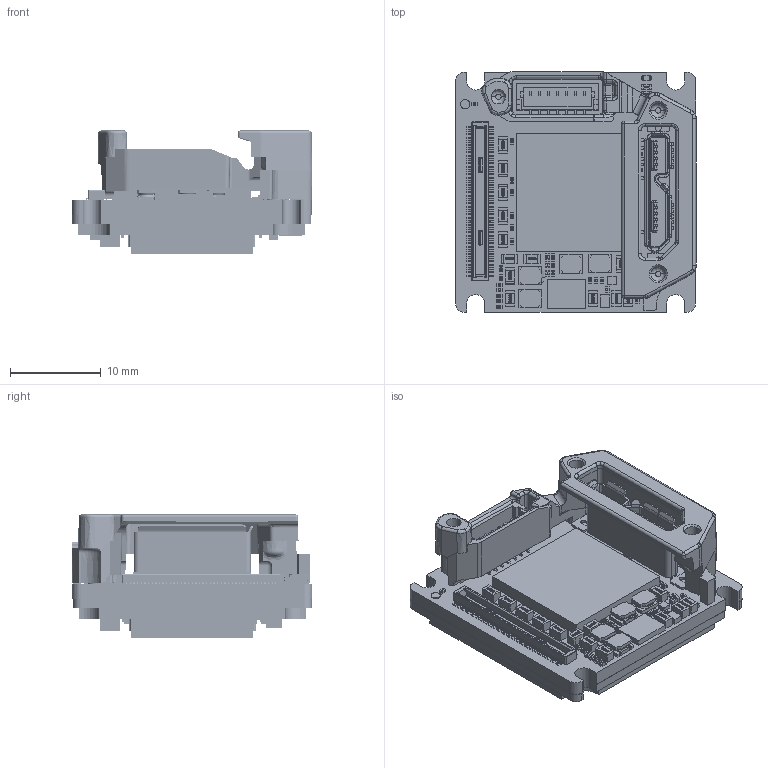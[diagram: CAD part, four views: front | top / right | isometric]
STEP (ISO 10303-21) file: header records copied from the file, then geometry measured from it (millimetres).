
FILE_DESCRIPTION (( 'STEP AP214' ), '1' );
FILE_NAME ('Alvium-USB180-Bare-Board-IMX14x14.STEP', '2022-10-18T13:03:58', ( '' ), ( '' ), 'SwSTEP 2.0', 'SolidWorks 2021', '' );
FILE_SCHEMA (( 'AUTOMOTIVE_DESIGN' ));
Length unit declared in the file: millimetre
Products named in the file (1): Alvium-USB180-Bare-Board-IMX14x14
Bounding box: 26.48 x 26.45 x 13.54 mm (x, y, z)
Surface area: 5786.7 mm2 (no closed solid volume)
Topology: 0 solids, 188 shells, 10705 faces, 27134 edges, 17763 vertices
Faces by surface type: plane 5306, bspline 4299, cylinder 996, cone 46, torus 40, sphere 18
Entity records: 680687 total; most frequent: CARTESIAN_POINT 332575, ORIENTED_EDGE 54264, DIRECTION 33270, EDGE_CURVE 27132, VERTEX_POINT 17771, VECTOR 16306, LINE 16306, EDGE_LOOP 11689
